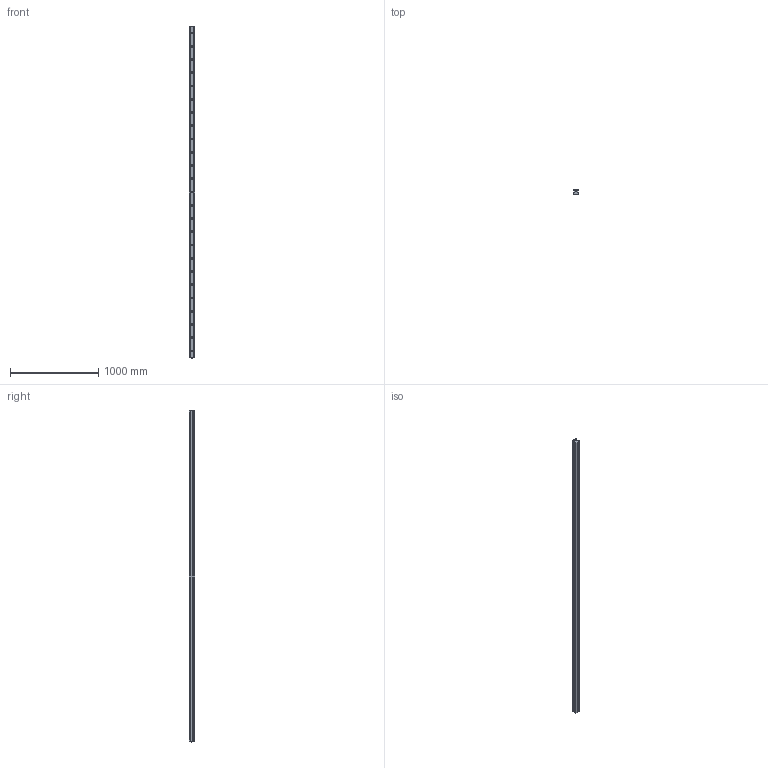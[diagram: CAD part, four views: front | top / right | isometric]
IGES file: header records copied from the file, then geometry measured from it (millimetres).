
Start section: 3D InterOp IGES (v. 2019 1.0.2), Spatial Corp. Copyright (c) 1999-2017.
Global section: file name: R1605.6_size65.igs; native system: Spatial Corp.; preprocessor: 3D InterOp GENERIC/IGES 3.0; author: Noname; organization: Noname; date: 20220629.163517; units: millimetre
Bounding box: 63 x 61.25 x 3758.51 mm (x, y, z)
Surface area: 1502999.1 mm2 (no closed solid volume)
Topology: 0 solids, 0 shells, 1477 faces, 8212 edges, 8208 vertices
Faces by surface type: extrusion 1253, revolution 224
